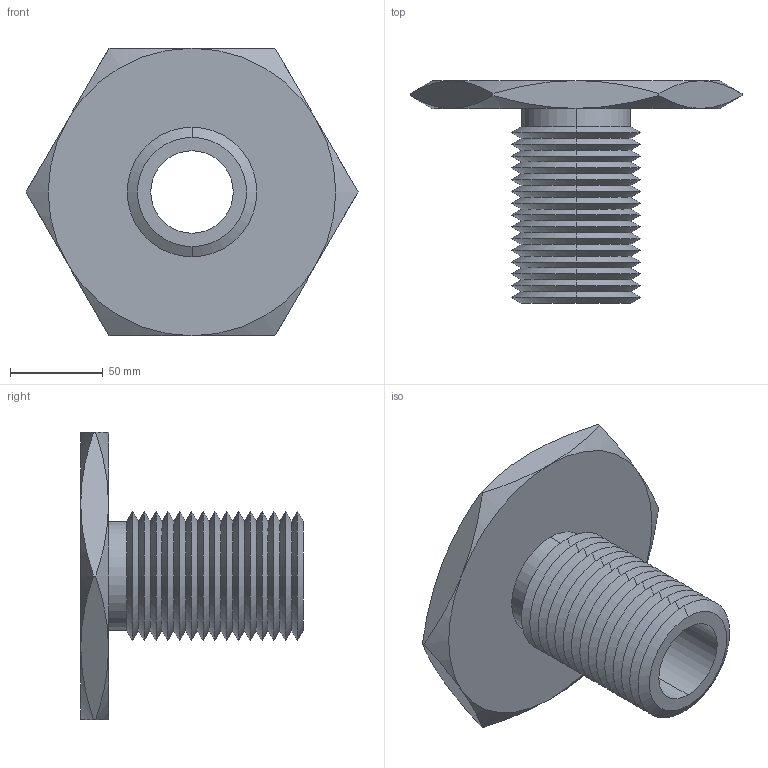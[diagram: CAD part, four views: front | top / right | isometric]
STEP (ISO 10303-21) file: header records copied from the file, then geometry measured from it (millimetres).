
FILE_DESCRIPTION (( 'STEP AP203' ), '1' );
FILE_NAME ('63302.W5275_1,75 UNC-5.step', '2013-12-08T11:56:06', ( 'User' ), ( '' ), 'SwSTEP 2.0', 'SolidWorks 2009', '' );
FILE_SCHEMA (( 'CONFIG_CONTROL_DESIGN' ));
Length unit declared in the file: millimetre
Products named in the file (1): 63302.W5275_1,75 UNC-5
Bounding box: 178.98 x 120 x 155 mm (x, y, z)
Volume: 452918.4 mm3; surface area: 101302.8 mm2
Topology: 1 solids, 1 shells, 87 faces, 178 edges, 94 vertices
Faces by surface type: cone 74, plane 9, cylinder 4
Entity records: 2479 total; most frequent: CARTESIAN_POINT 584, DIRECTION 412, ORIENTED_EDGE 356, EDGE_CURVE 178, AXIS2_PLACEMENT_3D 170, VERTEX_POINT 94, EDGE_LOOP 90, ADVANCED_FACE 87
